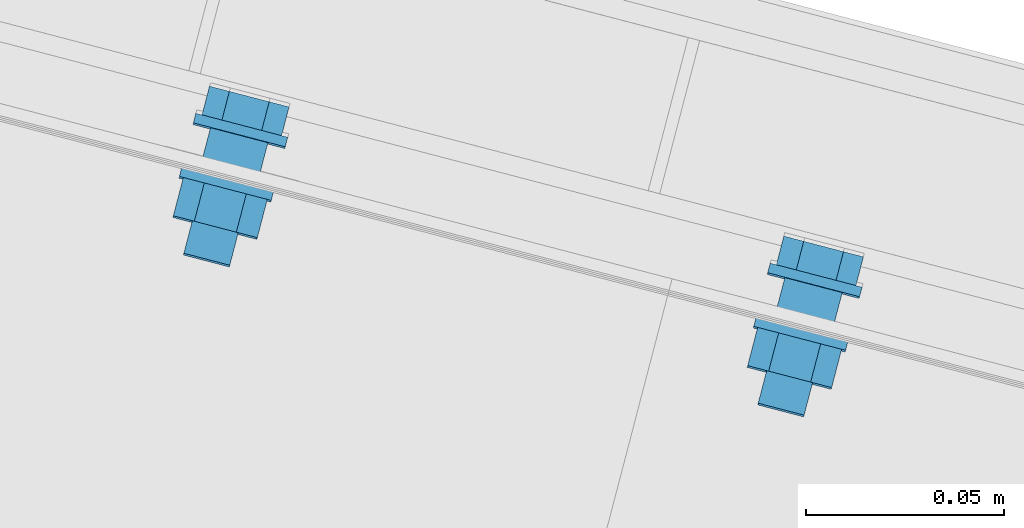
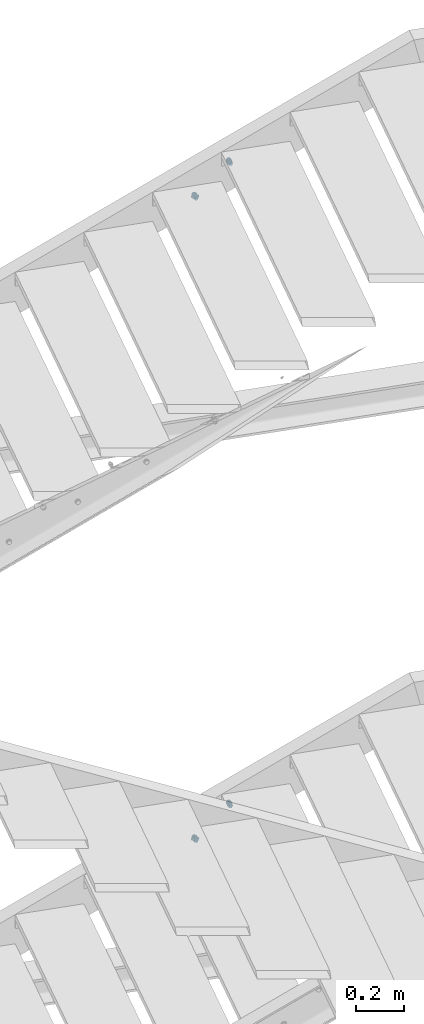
# One storey, part 155 of 169: 4 mechanical fasteners, 4 elements without a shape of their own.
"""IFC2X3 building model written with IfcOpenShell, lengths in millimetres."""

from ifc_helpers import new_model, si_unit, frame, frame_2d, origin_with_axes, origin_2d_with_axis, place, context, subcontext, project, spatial, polyline, circle_curve, parameter, trimmed, segment, composite_curve, circle, outline, extrude, source, transform, mapped, material, type_object, element, aggregate, save


model = new_model("IFC2X3")

# Units and contexts
model_context = context("Model", 3, precision=1e-05, world=origin_with_axes())
body_context = subcontext(model_context, "Body", "Model", "MODEL_VIEW")
ifc_project = project(units=[si_unit("LENGTHUNIT", "METRE", prefix="MILLI"), si_unit("AREAUNIT", "SQUARE_METRE"), si_unit("VOLUMEUNIT", "CUBIC_METRE"), si_unit("MASSUNIT", "GRAM", prefix="KILO"), si_unit("TIMEUNIT", "SECOND"), si_unit("PLANEANGLEUNIT", "RADIAN"), si_unit("SOLIDANGLEUNIT", "STERADIAN"), si_unit("THERMODYNAMICTEMPERATUREUNIT", "DEGREE_CELSIUS"), si_unit("LUMINOUSINTENSITYUNIT", "LUMEN")], contexts=[model_context])

# Site, building, storey
site_placement = place(None, origin_with_axes())
site = spatial("IfcSite", under=ifc_project, at=site_placement, Name="Undefined", CompositionType="ELEMENT")
building_placement = place(site_placement, origin_with_axes())
building = spatial("IfcBuilding", under=site, at=building_placement, Name="Undefined", CompositionType="ELEMENT")
storey_placement = place(building_placement, origin_with_axes())
storey = spatial("IfcBuildingStorey", under=building, at=storey_placement, Name="Undefined", CompositionType="ELEMENT", Elevation=0.0)

# Assembly, mechanical fastener
assembly_1_placement = place(storey_placement, origin_with_axes())
assembly_1 = element("IfcElementAssembly", 1, at=assembly_1_placement, inside=storey, Name="Steel Assembly", AssemblyPlace="NOTDEFINED", PredefinedType="RIGID_FRAME")
ifc_material = material(Name="Undefined")
discrete_accessory_type = type_object("IfcDiscreteAccessoryType", Name="Bolt assembly")
shared_shape_1 = source(origin_with_axes(), body_context, "Body", "SweptSolid", [
    extrude(circle(Radius=7.5, at=origin_2d_with_axis()), frame((0.0, -8.39999975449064, 0.0), z_axis=(0.0, 1.0, 0.0), x_axis=(1.0, 0.0, 0.0)), (0.0, 0.0, 1.0), 8.5),
    extrude(circle(Radius=7.5, at=origin_2d_with_axis()), frame((0.0, -0.100000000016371, 0.0), z_axis=(0.0, 1.0, 0.0), x_axis=(1.0, 0.0, 0.0)), (0.0, 0.0, 1.0), 3.1),
    extrude(outline(polyline([(10.39230484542, 0.0), (5.19615242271, 9.00000000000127), (-5.19615242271, 9.00000000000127), (-10.39230484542, 0.0), (-5.19615242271, -9.00000000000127), (5.19615242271, -9.00000000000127), (10.39230484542, 0.0)])), frame((0.0, -18.4999993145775, 0.0), z_axis=(0.0, 1.0, 0.0), x_axis=(1.0, 0.0, 0.0)), (0.0, 0.0, 1.0), 7.5),
    extrude(circle(Radius=6.0, at=origin_2d_with_axis()), frame((0.0, -10.9999999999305, 0.0), z_axis=(0.0, 1.0, 0.0), x_axis=(1.0, 0.0, 0.0)), (0.0, 0.0, 1.0), 35.0),
    extrude(circle(Radius=12.0, at=origin_2d_with_axis()), frame((0.0, -10.9999999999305, 0.0), z_axis=(0.0, 1.0, 0.0), x_axis=(1.0, 0.0, 0.0)), (0.0, 0.0, 1.0), 2.5),
    extrude(circle(Radius=12.0, at=origin_2d_with_axis()), frame((0.0, 2.99999999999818, 0.0), z_axis=(0.0, 1.0, 0.0), x_axis=(1.0, 0.0, 0.0)), (0.0, 0.0, 1.0), 2.5),
    extrude(outline(polyline([(10.96965511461, 0.0), (5.484827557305, 9.50000000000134), (-5.484827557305, 9.50000000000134), (-10.96965511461, 0.0), (-5.484827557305, -9.50000000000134), (5.484827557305, -9.50000000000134), (10.96965511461, 0.0)])), frame((0.0, 5.50000000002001, 0.0), z_axis=(0.0, 1.0, 0.0), x_axis=(1.0, 0.0, 0.0)), (0.0, 0.0, 1.0), 10.0),
])
mechanical_fastener_1_placement = place(assembly_1_placement, frame((-25243.882537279, 8157.4874735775, 6950.09584768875), z_axis=(-2.54700353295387e-10, 0.0, -1.0), x_axis=(0.967580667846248, -0.252562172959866, 0.0)))
mechanical_fastener_1 = element("IfcMechanicalFastener", 2, at=mechanical_fastener_1_placement, type_object=discrete_accessory_type, material=ifc_material, Name="Bolt assembly", NominalDiameter=12.0, NominalLength=35.0, context=body_context, shape_type="MappedRepresentation", body=[
    mapped(shared_shape_1, transform((35.0000000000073, -1.23691279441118e-10, 25.0))),
])
aggregate(assembly_1, [mechanical_fastener_1])

assembly_2_placement = place(storey_placement, origin_with_axes())
assembly_2 = element("IfcElementAssembly", 3, at=assembly_2_placement, inside=storey, Name="Steel Assembly", AssemblyPlace="NOTDEFINED", PredefinedType="RIGID_FRAME")
mechanical_fastener_2_placement = place(assembly_2_placement, frame((-25243.9966229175, 8157.05056056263, 3650.0958743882), z_axis=(-2.54700353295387e-10, 0.0, -1.0), x_axis=(0.967580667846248, -0.252562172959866, 0.0)))
mechanical_fastener_2 = element("IfcMechanicalFastener", 4, at=mechanical_fastener_2_placement, type_object=discrete_accessory_type, material=ifc_material, Name="Bolt assembly", NominalDiameter=12.0, NominalLength=35.0, context=body_context, shape_type="MappedRepresentation", body=[
    mapped(shared_shape_1, transform((35.0000000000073, -1.23691279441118e-10, 25.0))),
])
aggregate(assembly_2, [mechanical_fastener_2])

assembly_3_placement = place(storey_placement, origin_with_axes())
assembly_3 = element("IfcElementAssembly", 5, at=assembly_3_placement, inside=storey, Name="Steel Assembly", AssemblyPlace="NOTDEFINED", PredefinedType="RIGID_FRAME")
shared_shape_2 = source(origin_with_axes(), body_context, "Body", "SweptSolid", [
    extrude(circle(Radius=7.5, at=origin_2d_with_axis()), frame((0.0, -8.39999975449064, 0.0), z_axis=(0.0, 1.0, 0.0), x_axis=(1.0, 0.0, 0.0)), (0.0, 0.0, 1.0), 8.5),
    extrude(outline(composite_curve([segment(polyline([(-10.0, 7.5), (10.0, 7.5)]), True, "CONTINUOUS"), segment(trimmed(circle_curve(frame_2d((10.0, 0.0), x_axis=(0.0, 1.0)), 7.5), [parameter(0.0)], [parameter(3.14159265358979)], False, "PARAMETER"), True, "CONTINUOUS"), segment(polyline([(10.0, -7.5), (-10.0, -7.5)]), True, "CONTINUOUS"), segment(trimmed(circle_curve(frame_2d((-10.0, 0.0), x_axis=(0.0, -1.0)), 7.5), [parameter(0.0)], [parameter(3.14159265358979)], False, "PARAMETER"), True, "DISCONTINUOUS")], self_intersect=False)), frame((0.0, -0.100000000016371, 0.0), z_axis=(0.0, 1.0, 0.0), x_axis=(1.0, 0.0, 0.0)), (0.0, 0.0, 1.0), 3.1),
    extrude(outline(polyline([(10.39230484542, 0.0), (5.19615242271, 9.00000000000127), (-5.19615242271, 9.00000000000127), (-10.39230484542, 0.0), (-5.19615242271, -9.00000000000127), (5.19615242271, -9.00000000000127), (10.39230484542, 0.0)])), frame((0.0, -18.4999993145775, 0.0), z_axis=(0.0, 1.0, 0.0), x_axis=(1.0, 0.0, 0.0)), (0.0, 0.0, 1.0), 7.5),
    extrude(circle(Radius=6.0, at=origin_2d_with_axis()), frame((0.0, -10.9999999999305, 0.0), z_axis=(0.0, 1.0, 0.0), x_axis=(1.0, 0.0, 0.0)), (0.0, 0.0, 1.0), 35.0),
    extrude(circle(Radius=12.0, at=origin_2d_with_axis()), frame((0.0, -10.9999999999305, 0.0), z_axis=(0.0, 1.0, 0.0), x_axis=(1.0, 0.0, 0.0)), (0.0, 0.0, 1.0), 2.5),
    extrude(circle(Radius=12.0, at=origin_2d_with_axis()), frame((0.0, 2.99999999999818, 0.0), z_axis=(0.0, 1.0, 0.0), x_axis=(1.0, 0.0, 0.0)), (0.0, 0.0, 1.0), 2.5),
    extrude(outline(polyline([(10.96965511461, 0.0), (5.484827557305, 9.50000000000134), (-5.484827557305, 9.50000000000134), (-10.96965511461, 0.0), (-5.484827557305, -9.50000000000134), (5.484827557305, -9.50000000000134), (10.96965511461, 0.0)])), frame((0.0, 5.50000000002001, 0.0), z_axis=(0.0, 1.0, 0.0), x_axis=(1.0, 0.0, 0.0)), (0.0, 0.0, 1.0), 10.0),
])
mechanical_fastener_3_placement = place(assembly_3_placement, frame((-25534.1567410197, 8233.25612638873, 6800.09584768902), z_axis=(-2.54700353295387e-10, 0.0, -1.0), x_axis=(0.967580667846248, -0.252562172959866, 0.0)))
mechanical_fastener_3 = element("IfcMechanicalFastener", 6, at=mechanical_fastener_3_placement, type_object=discrete_accessory_type, material=ifc_material, Name="Bolt assembly", NominalDiameter=12.0, NominalLength=35.0, context=body_context, shape_type="MappedRepresentation", body=[
    mapped(shared_shape_2, transform((185.00000000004, -6.51198206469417e-10, 25.0))),
])
aggregate(assembly_3, [mechanical_fastener_3])

assembly_4_placement = place(storey_placement, origin_with_axes())
assembly_4 = element("IfcElementAssembly", 7, at=assembly_4_placement, inside=storey, Name="Steel Assembly", AssemblyPlace="NOTDEFINED", PredefinedType="RIGID_FRAME")
shared_shape_3 = source(origin_with_axes(), body_context, "Body", "SweptSolid", [
    extrude(circle(Radius=7.5, at=origin_2d_with_axis()), frame((0.0, -8.39999975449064, 0.0), z_axis=(0.0, 1.0, 0.0), x_axis=(1.0, 0.0, 0.0)), (0.0, 0.0, 1.0), 8.5),
    extrude(outline(composite_curve([segment(polyline([(-10.0, 7.5), (10.0, 7.5)]), True, "CONTINUOUS"), segment(trimmed(circle_curve(frame_2d((10.0, 0.0), x_axis=(0.0, 1.0)), 7.5), [parameter(0.0)], [parameter(3.14159265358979)], False, "PARAMETER"), True, "CONTINUOUS"), segment(polyline([(10.0, -7.5), (-10.0, -7.5)]), True, "CONTINUOUS"), segment(trimmed(circle_curve(frame_2d((-10.0, 0.0), x_axis=(0.0, -1.0)), 7.5), [parameter(0.0)], [parameter(3.14159265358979)], False, "PARAMETER"), True, "DISCONTINUOUS")], self_intersect=False)), frame((0.0, -0.100000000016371, 0.0), z_axis=(0.0, 1.0, 0.0), x_axis=(1.0, 0.0, 0.0)), (0.0, 0.0, 1.0), 3.1),
    extrude(outline(polyline([(10.39230484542, 0.0), (5.19615242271, 9.00000000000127), (-5.19615242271, 9.00000000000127), (-10.39230484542, 0.0), (-5.19615242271, -9.00000000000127), (5.19615242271, -9.00000000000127), (10.39230484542, 0.0)])), frame((0.0, -18.4999993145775, 0.0), z_axis=(0.0, 1.0, 0.0), x_axis=(1.0, 0.0, 0.0)), (0.0, 0.0, 1.0), 7.5),
    extrude(circle(Radius=6.0, at=origin_2d_with_axis()), frame((0.0, -10.9999999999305, 0.0), z_axis=(0.0, 1.0, 0.0), x_axis=(1.0, 0.0, 0.0)), (0.0, 0.0, 1.0), 35.0),
    extrude(circle(Radius=12.0, at=origin_2d_with_axis()), frame((0.0, -10.9999999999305, 0.0), z_axis=(0.0, 1.0, 0.0), x_axis=(1.0, 0.0, 0.0)), (0.0, 0.0, 1.0), 2.5),
    extrude(circle(Radius=12.0, at=origin_2d_with_axis()), frame((0.0, 2.99999999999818, 0.0), z_axis=(0.0, 1.0, 0.0), x_axis=(1.0, 0.0, 0.0)), (0.0, 0.0, 1.0), 2.5),
    extrude(outline(polyline([(10.96965511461, 0.0), (5.484827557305, 9.50000000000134), (-5.484827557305, 9.50000000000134), (-10.96965511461, 0.0), (-5.484827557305, -9.50000000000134), (5.484827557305, -9.50000000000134), (10.96965511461, 0.0)])), frame((0.0, 5.50000000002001, 0.0), z_axis=(0.0, 1.0, 0.0), x_axis=(1.0, 0.0, 0.0)), (0.0, 0.0, 1.0), 10.0),
])
mechanical_fastener_4_placement = place(assembly_4_placement, frame((-25534.2708266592, 8232.81921337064, 3500.09587438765), z_axis=(-2.54700353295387e-10, 0.0, -1.0), x_axis=(0.967580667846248, -0.252562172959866, 0.0)))
mechanical_fastener_4 = element("IfcMechanicalFastener", 8, at=mechanical_fastener_4_placement, type_object=discrete_accessory_type, material=ifc_material, Name="Bolt assembly", NominalDiameter=12.0, NominalLength=35.0, context=body_context, shape_type="MappedRepresentation", body=[
    mapped(shared_shape_3, transform((185.00000000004, -6.51198206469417e-10, 25.0))),
])
aggregate(assembly_4, [mechanical_fastener_4])

save(model, "model.ifc")
